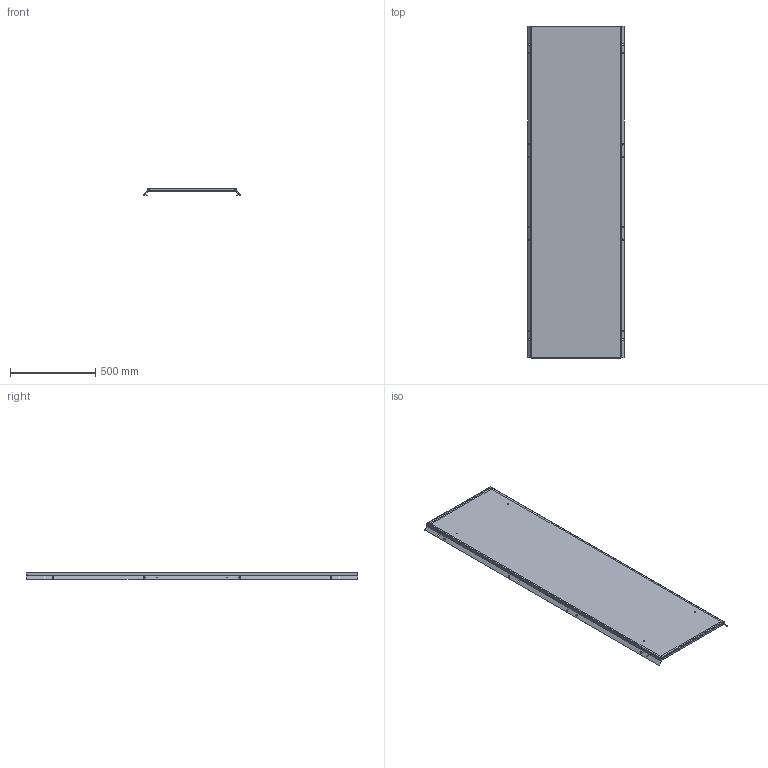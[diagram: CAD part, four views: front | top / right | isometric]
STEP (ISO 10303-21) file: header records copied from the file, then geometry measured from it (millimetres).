
FILE_DESCRIPTION (( 'STEP AP203' ), '1' );
FILE_NAME ('MA1.200.060620.10.00 AleSta-PR206 Ïàíåëü çàäíÿÿ, äëÿ øêàôîâ ALESTA, 2000 x 600.STEP', '2025-02-19T15:08:44', ( '' ), ( '' ), 'SwSTEP 2.0', 'SolidWorks 2021', '' );
FILE_SCHEMA (( 'CONFIG_CONTROL_DESIGN' ));
Length unit declared in the file: millimetre
Products named in the file (6): MA1.200.060620.11.00 Ïàíåëü çàäíÿÿ, äëÿ øêàôîâ AleSta, 2000x600_2000å600; Øïèëüêà Ì6õ12_˜¯¨«ìª  Œ6å12; Óïëîòíèòåëü ïàíåëè íèæíåé_¯® ¢ëá®â¥ 600å2000; MA1.200.060620.10.00 AleSta-PR206  Ïàíåëü çàäíÿÿ, äëÿ øêàôîâ ALESTA, 2000 x 600; Âèíò ñàìîíàðåçàþùèé ñ ïîòàéíîé ãîëîâêîé Ì5x16 DIN 7500 M TORX, êëàññ ïðî÷íîñòè 8.8, îöèíêîâàííàÿ ñòàëü_Œ5å16; MA1.200.060620.11.01 Ïîëîòíî çàäíåé ïàíåëè 2000õ600_2000å600
Assembly tree (15 placements, depth 3):
  MA1.200.060620.10.00 AleSta-PR206  Ïàíåëü çàäíÿÿ, äëÿ øêàôîâ ALESTA, 2000 x 600
    MA1.200.060620.11.00 Ïàíåëü çàäíÿÿ, äëÿ øêàôîâ AleSta, 2000x600_2000å600
      MA1.200.060620.11.01 Ïîëîòíî çàäíåé ïàíåëè 2000õ600_2000å600
      Óïëîòíèòåëü ïàíåëè íèæíåé_¯® ¢ëá®â¥ 600å2000
      Øïèëüêà Ì6õ12_˜¯¨«ìª  Œ6å12  x4
    Âèíò ñàìîíàðåçàþùèé ñ ïîòàéíîé ãîëîâêîé Ì5x16 DIN 7500 M TORX, êëàññ ïðî÷íîñòè 8.8, îöèíêîâàííàÿ ñòàëü_Œ5å16  x8
Bounding box: 565.31 x 1945 x 41.7 mm (x, y, z)
Volume: 1529737 mm3; surface area: 2599918 mm2
Topology: 14 solids, 14 shells, 544 faces, 1352 edges, 864 vertices
Faces by surface type: cylinder 304, plane 184, cone 40, bspline 8, torus 8
Entity records: 7885 total; most frequent: CARTESIAN_POINT 1623, DIRECTION 1165, ORIENTED_EDGE 1074, EDGE_CURVE 537, AXIS2_PLACEMENT_3D 424, VERTEX_POINT 332, LINE 317, VECTOR 317
